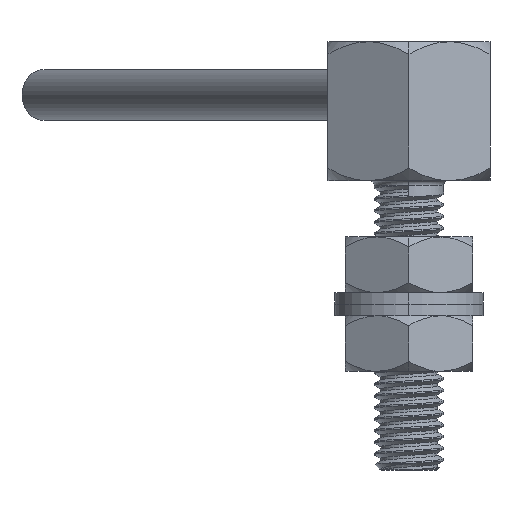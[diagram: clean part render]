
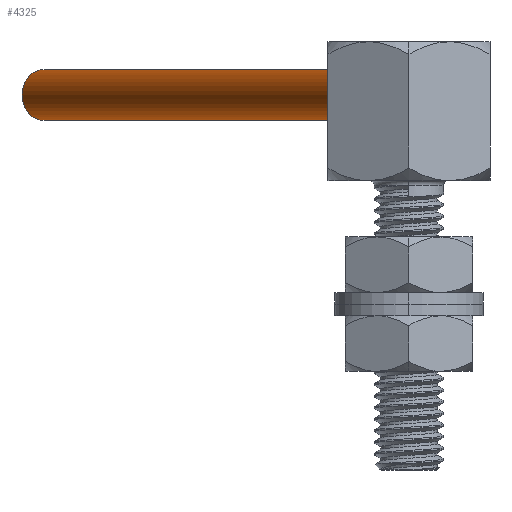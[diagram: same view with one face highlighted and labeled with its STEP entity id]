
A CAD part, left-side view. The second image highlights one B-rep face of the part: STEP entity #4325.
In plain terms, the highlighted cylindrical face has radius 1.1 mm (diameter 2.2 mm), a partial arc.
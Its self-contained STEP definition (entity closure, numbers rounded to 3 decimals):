
#436 = AXIS2_PLACEMENT_3D ( 'NONE', #8876, #1225, #7036 ) ;
#597 = CARTESIAN_POINT ( 'NONE',  ( -1.1, 0., 0. ) ) ;
#796 = CIRCLE ( 'NONE', #436, 1.1 ) ;
#903 = CARTESIAN_POINT ( 'NONE',  ( 0., 0., 30. ) ) ;
#1059 = ORIENTED_EDGE ( 'NONE', *, *, #8408, .T. ) ;
#1141 = LINE ( 'NONE', #5398, #7927 ) ;
#1225 = DIRECTION ( 'NONE',  ( 0., 0., 1. ) ) ;
#1240 = AXIS2_PLACEMENT_3D ( 'NONE', #10331, #3619, #10383 ) ;
#1274 = VERTEX_POINT ( 'NONE', #2644 ) ;
#1653 = EDGE_CURVE ( 'NONE', #1274, #9534, #6054, .T. ) ;
#1798 = CYLINDRICAL_SURFACE ( 'NONE', #3445, 1.1 ) ;
#2644 = CARTESIAN_POINT ( 'NONE',  ( 1.1, 0., 30. ) ) ;
#2654 = CARTESIAN_POINT ( 'NONE',  ( 1.1, 0., 0. ) ) ;
#2708 = ORIENTED_EDGE ( 'NONE', *, *, #1653, .F. ) ;
#3320 = DIRECTION ( 'NONE',  ( 0., 0., -1. ) ) ;
#3364 = VERTEX_POINT ( 'NONE', #597 ) ;
#3445 = AXIS2_PLACEMENT_3D ( 'NONE', #903, #3320, #4328 ) ;
#3619 = DIRECTION ( 'NONE',  ( 0., 0., 1. ) ) ;
#4325 = ADVANCED_FACE ( 'NONE', ( #9395 ), #1798, .T. ) ;
#4328 = DIRECTION ( 'NONE',  ( -1., 0., 0. ) ) ;
#4330 = ORIENTED_EDGE ( 'NONE', *, *, #8597, .F. ) ;
#4768 = CARTESIAN_POINT ( 'NONE',  ( -1.1, 0., 30. ) ) ;
#4935 = DIRECTION ( 'NONE',  ( 0., 0., -1. ) ) ;
#5398 = CARTESIAN_POINT ( 'NONE',  ( 1.1, 0., 30. ) ) ;
#6054 = CIRCLE ( 'NONE', #1240, 1.1 ) ;
#6374 = DIRECTION ( 'NONE',  ( 0., 0., -1. ) ) ;
#6390 = VECTOR ( 'NONE', #4935, 1000. ) ;
#6719 = EDGE_LOOP ( 'NONE', ( #2708, #1059, #8413, #4330 ) ) ;
#7036 = DIRECTION ( 'NONE',  ( 1., 0., 0. ) ) ;
#7330 = LINE ( 'NONE', #4768, #6390 ) ;
#7927 = VECTOR ( 'NONE', #6374, 1000. ) ;
#8408 = EDGE_CURVE ( 'NONE', #1274, #8718, #1141, .T. ) ;
#8413 = ORIENTED_EDGE ( 'NONE', *, *, #10172, .T. ) ;
#8597 = EDGE_CURVE ( 'NONE', #9534, #3364, #7330, .T. ) ;
#8718 = VERTEX_POINT ( 'NONE', #2654 ) ;
#8876 = CARTESIAN_POINT ( 'NONE',  ( 0., 0., 0. ) ) ;
#8923 = CARTESIAN_POINT ( 'NONE',  ( -1.1, 0., 30. ) ) ;
#9395 = FACE_OUTER_BOUND ( 'NONE', #6719, .T. ) ;
#9534 = VERTEX_POINT ( 'NONE', #8923 ) ;
#10172 = EDGE_CURVE ( 'NONE', #8718, #3364, #796, .T. ) ;
#10331 = CARTESIAN_POINT ( 'NONE',  ( 0., 0., 30. ) ) ;
#10383 = DIRECTION ( 'NONE',  ( 1., 0., 0. ) ) ;
